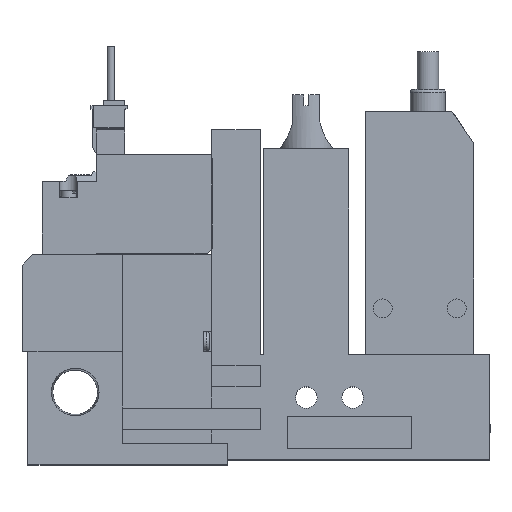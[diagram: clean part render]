
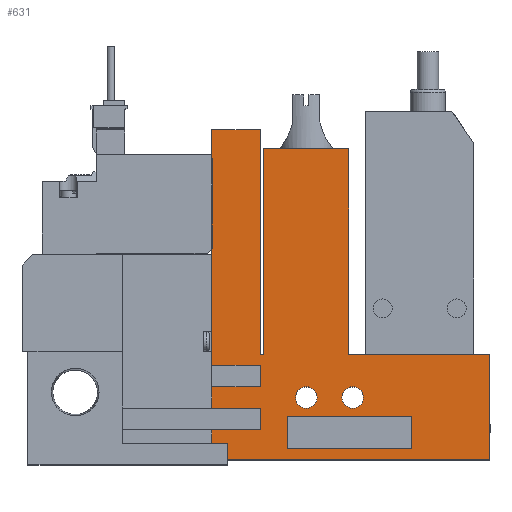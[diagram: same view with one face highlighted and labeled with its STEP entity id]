
A CAD part, top view. The second image highlights one B-rep face of the part: STEP entity #631.
In plain terms, the highlighted planar face has unit normal (0, 0, 1).
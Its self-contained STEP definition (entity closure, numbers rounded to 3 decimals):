
#631=ADVANCED_FACE('',(#1337,#1338,#1339,#1340),#1341,.T.);
#1337=FACE_OUTER_BOUND('',#2229,.T.);
#1338=FACE_BOUND('',#2230,.T.);
#1339=FACE_BOUND('',#2231,.T.);
#1340=FACE_BOUND('',#2232,.T.);
#1341=PLANE('',#2233);
#2229=EDGE_LOOP('',(#4741,#4742,#4743,#4744,#4745,#4746,#4747,#4748,#4749,#4750,#4751,#4752,#4753,#4754,#4755,#4756,#4757,#4758));
#2230=EDGE_LOOP('',(#4759,#4760,#4761,#4762));
#2231=EDGE_LOOP('',(#4763));
#2232=EDGE_LOOP('',(#4764));
#2233=AXIS2_PLACEMENT_3D('',#4765,#4766,#4767);
#4741=ORIENTED_EDGE('',*,*,#6396,.T.);
#4742=ORIENTED_EDGE('',*,*,#6412,.T.);
#4743=ORIENTED_EDGE('',*,*,#6413,.T.);
#4744=ORIENTED_EDGE('',*,*,#6362,.T.);
#4745=ORIENTED_EDGE('',*,*,#6414,.T.);
#4746=ORIENTED_EDGE('',*,*,#6415,.T.);
#4747=ORIENTED_EDGE('',*,*,#6376,.T.);
#4748=ORIENTED_EDGE('',*,*,#6400,.T.);
#4749=ORIENTED_EDGE('',*,*,#6416,.T.);
#4750=ORIENTED_EDGE('',*,*,#6417,.T.);
#4751=ORIENTED_EDGE('',*,*,#6418,.T.);
#4752=ORIENTED_EDGE('',*,*,#6419,.T.);
#4753=ORIENTED_EDGE('',*,*,#6420,.T.);
#4754=ORIENTED_EDGE('',*,*,#6421,.T.);
#4755=ORIENTED_EDGE('',*,*,#6422,.T.);
#4756=ORIENTED_EDGE('',*,*,#6423,.T.);
#4757=ORIENTED_EDGE('',*,*,#6405,.T.);
#4758=ORIENTED_EDGE('',*,*,#6424,.T.);
#4759=ORIENTED_EDGE('',*,*,#6425,.T.);
#4760=ORIENTED_EDGE('',*,*,#6426,.T.);
#4761=ORIENTED_EDGE('',*,*,#6427,.T.);
#4762=ORIENTED_EDGE('',*,*,#6428,.T.);
#4763=ORIENTED_EDGE('',*,*,#6411,.T.);
#4764=ORIENTED_EDGE('',*,*,#6429,.T.);
#4765=CARTESIAN_POINT('',(0.0,0.0,10.0));
#4766=DIRECTION('',(0.0,0.0,1.0));
#4767=DIRECTION('',(1.0,0.0,0.0));
#6362=EDGE_CURVE('',#7801,#7808,#7810,.T.);
#6376=EDGE_CURVE('',#7831,#7836,#7838,.T.);
#6396=EDGE_CURVE('',#7875,#7873,#7876,.T.);
#6400=EDGE_CURVE('',#7836,#7881,#7883,.T.);
#6405=EDGE_CURVE('',#7892,#7890,#7893,.T.);
#6411=EDGE_CURVE('',#7903,#7903,#7904,.T.);
#6412=EDGE_CURVE('',#7873,#7905,#7906,.T.);
#6413=EDGE_CURVE('',#7905,#7801,#7907,.T.);
#6414=EDGE_CURVE('',#7808,#7908,#7909,.T.);
#6415=EDGE_CURVE('',#7908,#7831,#7910,.T.);
#6416=EDGE_CURVE('',#7881,#7911,#7912,.T.);
#6417=EDGE_CURVE('',#7911,#7913,#7914,.T.);
#6418=EDGE_CURVE('',#7913,#7915,#7916,.T.);
#6419=EDGE_CURVE('',#7915,#7917,#7918,.T.);
#6420=EDGE_CURVE('',#7917,#7919,#7920,.T.);
#6421=EDGE_CURVE('',#7919,#7921,#7922,.T.);
#6422=EDGE_CURVE('',#7921,#7923,#7924,.T.);
#6423=EDGE_CURVE('',#7923,#7892,#7925,.T.);
#6424=EDGE_CURVE('',#7890,#7875,#7926,.T.);
#6425=EDGE_CURVE('',#7927,#7928,#7929,.T.);
#6426=EDGE_CURVE('',#7928,#7930,#7931,.T.);
#6427=EDGE_CURVE('',#7930,#7932,#7933,.T.);
#6428=EDGE_CURVE('',#7932,#7927,#7934,.T.);
#6429=EDGE_CURVE('',#7935,#7935,#7936,.T.);
#7801=VERTEX_POINT('',#10106);
#7808=VERTEX_POINT('',#10116);
#7810=LINE('',#10119,#10120);
#7831=VERTEX_POINT('',#10150);
#7836=VERTEX_POINT('',#10157);
#7838=LINE('',#10160,#10161);
#7873=VERTEX_POINT('',#10212);
#7875=VERTEX_POINT('',#10215);
#7876=LINE('',#10216,#10217);
#7881=VERTEX_POINT('',#10224);
#7883=LINE('',#10227,#10228);
#7890=VERTEX_POINT('',#10238);
#7892=VERTEX_POINT('',#10241);
#7893=LINE('',#10242,#10243);
#7903=VERTEX_POINT('',#10254);
#7904=CIRCLE('',#10255,2.0);
#7905=VERTEX_POINT('',#10256);
#7906=LINE('',#10257,#10258);
#7907=LINE('',#10259,#10260);
#7908=VERTEX_POINT('',#10261);
#7909=LINE('',#10262,#10263);
#7910=LINE('',#10264,#10265);
#7911=VERTEX_POINT('',#10266);
#7912=LINE('',#10267,#10268);
#7913=VERTEX_POINT('',#10269);
#7914=LINE('',#10270,#10271);
#7915=VERTEX_POINT('',#10272);
#7916=LINE('',#10273,#10274);
#7917=VERTEX_POINT('',#10275);
#7918=LINE('',#10276,#10277);
#7919=VERTEX_POINT('',#10278);
#7920=LINE('',#10279,#10280);
#7921=VERTEX_POINT('',#10281);
#7922=LINE('',#10282,#10283);
#7923=VERTEX_POINT('',#10284);
#7924=LINE('',#10285,#10286);
#7925=LINE('',#10287,#10288);
#7926=LINE('',#10289,#10290);
#7927=VERTEX_POINT('',#10291);
#7928=VERTEX_POINT('',#10292);
#7929=LINE('',#10293,#10294);
#7930=VERTEX_POINT('',#10295);
#7931=LINE('',#10296,#10297);
#7932=VERTEX_POINT('',#10298);
#7933=LINE('',#10299,#10300);
#7934=LINE('',#10301,#10302);
#7935=VERTEX_POINT('',#10303);
#7936=CIRCLE('',#10304,2.0);
#10106=CARTESIAN_POINT('',(44.1,13.5,10.0));
#10116=CARTESIAN_POINT('',(35.1,13.5,10.0));
#10119=CARTESIAN_POINT('',(0.0,13.5,10.0));
#10120=VECTOR('',#11825,1.0);
#10150=CARTESIAN_POINT('',(44.1,9.5,10.0));
#10157=CARTESIAN_POINT('',(44.1,5.5,10.0));
#10160=CARTESIAN_POINT('',(44.1,0.0,10.0));
#10161=VECTOR('',#11841,1.0);
#10212=CARTESIAN_POINT('',(35.1,17.5,10.0));
#10215=CARTESIAN_POINT('',(35.1,61.0,10.0));
#10216=CARTESIAN_POINT('',(35.1,61.0,10.0));
#10217=VECTOR('',#11862,1.0);
#10224=CARTESIAN_POINT('',(35.1,5.5,10.0));
#10227=CARTESIAN_POINT('',(0.0,5.5,10.0));
#10228=VECTOR('',#11866,1.0);
#10238=CARTESIAN_POINT('',(44.1,61.0,10.0));
#10241=CARTESIAN_POINT('',(44.1,19.5,10.0));
#10242=CARTESIAN_POINT('',(44.1,19.5,10.0));
#10243=VECTOR('',#11871,1.0);
#10254=CARTESIAN_POINT('',(54.6,11.5,10.0));
#10255=AXIS2_PLACEMENT_3D('',#11885,#11886,#11887);
#10256=CARTESIAN_POINT('',(44.1,17.5,10.0));
#10257=CARTESIAN_POINT('',(0.0,17.5,10.0));
#10258=VECTOR('',#11888,1.0);
#10259=CARTESIAN_POINT('',(44.1,0.0,10.0));
#10260=VECTOR('',#11889,1.0);
#10261=CARTESIAN_POINT('',(35.1,9.5,10.0));
#10262=CARTESIAN_POINT('',(35.1,0.0,10.0));
#10263=VECTOR('',#11890,1.0);
#10264=CARTESIAN_POINT('',(0.0,9.5,10.0));
#10265=VECTOR('',#11891,1.0);
#10266=CARTESIAN_POINT('',(35.1,0.0,10.0));
#10267=CARTESIAN_POINT('',(35.1,0.0,10.0));
#10268=VECTOR('',#11892,1.0);
#10269=CARTESIAN_POINT('',(86.6,0.0,10.0));
#10270=CARTESIAN_POINT('',(18.6,0.0,10.0));
#10271=VECTOR('',#11893,1.0);
#10272=CARTESIAN_POINT('',(86.6,19.5,10.0));
#10273=CARTESIAN_POINT('',(86.6,0.0,10.0));
#10274=VECTOR('',#11894,1.0);
#10275=CARTESIAN_POINT('',(60.45,19.5,10.0));
#10276=CARTESIAN_POINT('',(86.6,19.5,10.0));
#10277=VECTOR('',#11895,1.0);
#10278=CARTESIAN_POINT('',(60.45,57.5,10.0));
#10279=CARTESIAN_POINT('',(60.45,19.5,10.0));
#10280=VECTOR('',#11896,1.0);
#10281=CARTESIAN_POINT('',(44.75,57.5,10.0));
#10282=CARTESIAN_POINT('',(60.45,57.5,10.0));
#10283=VECTOR('',#11897,1.0);
#10284=CARTESIAN_POINT('',(44.75,19.5,10.0));
#10285=CARTESIAN_POINT('',(44.75,57.5,10.0));
#10286=VECTOR('',#11898,1.0);
#10287=CARTESIAN_POINT('',(44.75,19.5,10.0));
#10288=VECTOR('',#11899,1.0);
#10289=CARTESIAN_POINT('',(44.1,61.0,10.0));
#10290=VECTOR('',#11900,1.0);
#10291=CARTESIAN_POINT('',(49.1,2.0,10.0));
#10292=CARTESIAN_POINT('',(49.1,8.0,10.0));
#10293=CARTESIAN_POINT('',(49.1,0.0,10.0));
#10294=VECTOR('',#11901,1.0);
#10295=CARTESIAN_POINT('',(72.1,8.0,10.0));
#10296=CARTESIAN_POINT('',(0.0,8.0,10.0));
#10297=VECTOR('',#11902,1.0);
#10298=CARTESIAN_POINT('',(72.1,2.0,10.0));
#10299=CARTESIAN_POINT('',(72.1,0.0,10.0));
#10300=VECTOR('',#11903,1.0);
#10301=CARTESIAN_POINT('',(0.0,2.0,10.0));
#10302=VECTOR('',#11904,1.0);
#10303=CARTESIAN_POINT('',(63.2,11.5,10.0));
#10304=AXIS2_PLACEMENT_3D('',#11905,#11906,#11907);
#11825=DIRECTION('',(-1.0,0.0,0.0));
#11841=DIRECTION('',(0.0,-1.0,0.0));
#11862=DIRECTION('',(0.0,-1.0,0.0));
#11866=DIRECTION('',(-1.0,0.0,0.0));
#11871=DIRECTION('',(0.0,1.0,0.0));
#11885=CARTESIAN_POINT('',(52.6,11.5,10.0));
#11886=DIRECTION('',(0.0,0.0,-1.0));
#11887=DIRECTION('',(1.0,0.0,0.0));
#11888=DIRECTION('',(1.0,0.0,0.0));
#11889=DIRECTION('',(0.0,-1.0,0.0));
#11890=DIRECTION('',(0.0,-1.0,0.0));
#11891=DIRECTION('',(1.0,0.0,0.0));
#11892=DIRECTION('',(0.0,-1.0,0.0));
#11893=DIRECTION('',(1.0,0.0,0.0));
#11894=DIRECTION('',(0.0,1.0,0.0));
#11895=DIRECTION('',(-1.0,0.0,0.0));
#11896=DIRECTION('',(0.0,1.0,0.0));
#11897=DIRECTION('',(-1.0,0.0,0.0));
#11898=DIRECTION('',(0.0,-1.0,0.0));
#11899=DIRECTION('',(-1.0,0.0,0.0));
#11900=DIRECTION('',(-1.0,0.0,0.0));
#11901=DIRECTION('',(0.0,1.0,0.0));
#11902=DIRECTION('',(1.0,0.0,0.0));
#11903=DIRECTION('',(0.0,-1.0,0.0));
#11904=DIRECTION('',(-1.0,0.0,0.0));
#11905=CARTESIAN_POINT('',(61.2,11.5,10.0));
#11906=DIRECTION('',(0.0,0.0,-1.0));
#11907=DIRECTION('',(1.0,0.0,0.0));
